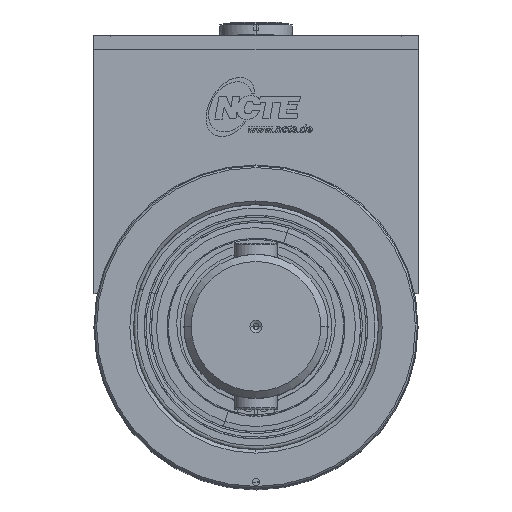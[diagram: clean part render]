
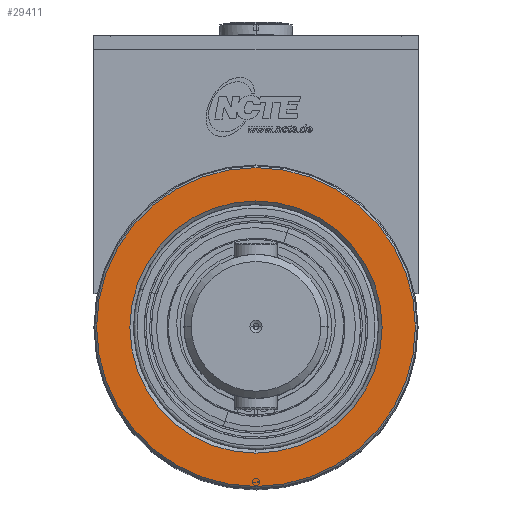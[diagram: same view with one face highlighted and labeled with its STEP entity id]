
A CAD part, top view. The second image highlights one B-rep face of the part: STEP entity #29411.
In plain terms, the highlighted planar face has unit normal (0, 0, -1).
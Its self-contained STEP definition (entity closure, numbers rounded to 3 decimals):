
#716 = CARTESIAN_POINT ( 'NONE',  ( 44.25, 0., 20. ) ) ;
#1007 = FACE_OUTER_BOUND ( 'NONE', #22381, .T. ) ;
#1641 = AXIS2_PLACEMENT_3D ( 'NONE', #2530, #5417, #36336 ) ;
#2267 = CIRCLE ( 'NONE', #1641, 35. ) ;
#2530 = CARTESIAN_POINT ( 'NONE',  ( 0., 0., 20. ) ) ;
#3678 = FACE_BOUND ( 'NONE', #20684, .T. ) ;
#4374 = CIRCLE ( 'NONE', #24569, 44.25 ) ;
#4580 = CIRCLE ( 'NONE', #10280, 44.25 ) ;
#4831 = CARTESIAN_POINT ( 'NONE',  ( 0., 0., 20. ) ) ;
#5059 = DIRECTION ( 'NONE',  ( 0., 0., 1. ) ) ;
#5417 = DIRECTION ( 'NONE',  ( 0., 0., -1. ) ) ;
#5469 = CARTESIAN_POINT ( 'NONE',  ( -44.25, 0., 20. ) ) ;
#5716 = ORIENTED_EDGE ( 'NONE', *, *, #27952, .F. ) ;
#5768 = DIRECTION ( 'NONE',  ( 0., 0., 1. ) ) ;
#6142 = CARTESIAN_POINT ( 'NONE',  ( 0., 0., 20. ) ) ;
#7269 = DIRECTION ( 'NONE',  ( 0., 0., 1. ) ) ;
#8097 = VERTEX_POINT ( 'NONE', #716 ) ;
#8808 = CIRCLE ( 'NONE', #15658, 35. ) ;
#9406 = ORIENTED_EDGE ( 'NONE', *, *, #22615, .F. ) ;
#10203 = EDGE_CURVE ( 'NONE', #21959, #8097, #4580, .T. ) ;
#10280 = AXIS2_PLACEMENT_3D ( 'NONE', #6142, #5768, #29036 ) ;
#15658 = AXIS2_PLACEMENT_3D ( 'NONE', #4831, #33246, #24861 ) ;
#19787 = VERTEX_POINT ( 'NONE', #23002 ) ;
#20684 = EDGE_LOOP ( 'NONE', ( #5716, #34175 ) ) ;
#21959 = VERTEX_POINT ( 'NONE', #5469 ) ;
#21962 = CARTESIAN_POINT ( 'NONE',  ( 0., 0., 20. ) ) ;
#22381 = EDGE_LOOP ( 'NONE', ( #36450, #9406 ) ) ;
#22615 = EDGE_CURVE ( 'NONE', #8097, #21959, #4374, .T. ) ;
#22697 = CARTESIAN_POINT ( 'NONE',  ( 0., 35., 20. ) ) ;
#23002 = CARTESIAN_POINT ( 'NONE',  ( 0., -35., 20. ) ) ;
#23057 = EDGE_CURVE ( 'NONE', #29574, #19787, #8808, .T. ) ;
#24536 = DIRECTION ( 'NONE',  ( -1., 0., 0. ) ) ;
#24569 = AXIS2_PLACEMENT_3D ( 'NONE', #27550, #7269, #24536 ) ;
#24861 = DIRECTION ( 'NONE',  ( 0., -1., 0. ) ) ;
#27550 = CARTESIAN_POINT ( 'NONE',  ( 0., 0., 20. ) ) ;
#27952 = EDGE_CURVE ( 'NONE', #19787, #29574, #2267, .T. ) ;
#29036 = DIRECTION ( 'NONE',  ( -1., 0., 0. ) ) ;
#29411 = ADVANCED_FACE ( 'NONE', ( #3678, #1007 ), #36696, .F. ) ;
#29574 = VERTEX_POINT ( 'NONE', #22697 ) ;
#29719 = AXIS2_PLACEMENT_3D ( 'NONE', #21962, #5059, #33826 ) ;
#33246 = DIRECTION ( 'NONE',  ( 0., 0., -1. ) ) ;
#33826 = DIRECTION ( 'NONE',  ( 1., 0., 0. ) ) ;
#34175 = ORIENTED_EDGE ( 'NONE', *, *, #23057, .F. ) ;
#36336 = DIRECTION ( 'NONE',  ( 0., -1., 0. ) ) ;
#36450 = ORIENTED_EDGE ( 'NONE', *, *, #10203, .F. ) ;
#36696 = PLANE ( 'NONE',  #29719 ) ;
